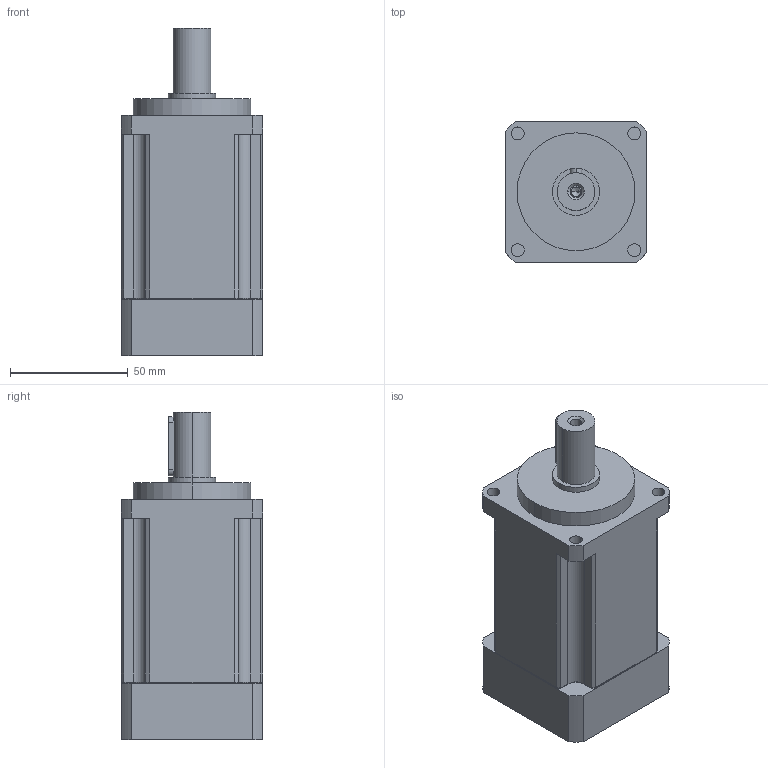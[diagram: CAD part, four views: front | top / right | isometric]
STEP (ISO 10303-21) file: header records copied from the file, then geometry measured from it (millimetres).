
FILE_DESCRIPTION (( 'STEP AP203' ), '1' );
FILE_NAME ('IB60L2.STEP', '2015-12-14T06:45:19', ( 'User' ), ( 'china' ), 'SwSTEP 2.0', 'SolidWorks 2015', '' );
FILE_SCHEMA (( 'CONFIG_CONTROL_DESIGN' ));
Length unit declared in the file: millimetre
Products named in the file (1): IB60L2
Bounding box: 60 x 60 x 139 mm (x, y, z)
Volume: 342018.7 mm3; surface area: 37215.7 mm2
Topology: 1 solids, 1 shells, 133 faces, 321 edges, 197 vertices
Faces by surface type: cylinder 73, plane 36, cone 12, torus 12
Entity records: 4016 total; most frequent: CARTESIAN_POINT 785, DIRECTION 701, ORIENTED_EDGE 622, EDGE_CURVE 311, AXIS2_PLACEMENT_3D 275, VERTEX_POINT 197, EDGE_LOOP 158, LINE 151
